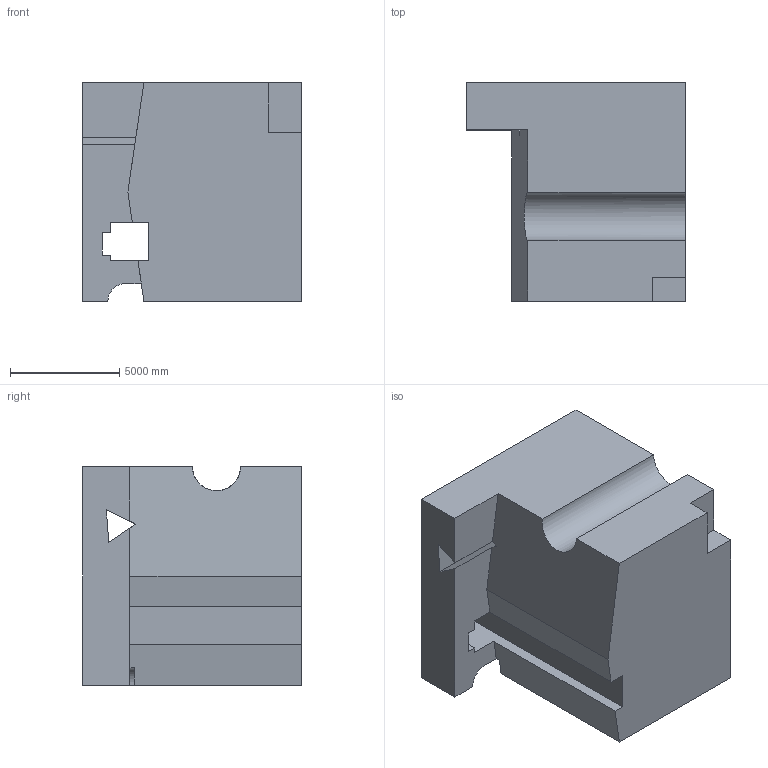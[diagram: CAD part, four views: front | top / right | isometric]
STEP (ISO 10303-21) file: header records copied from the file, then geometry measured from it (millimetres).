
FILE_DESCRIPTION (( 'STEP AP203' ), '1' );
FILE_NAME ('706.STEP', '2022-07-29T12:39:03', ( 'user' ), ( '' ), 'SwSTEP 2.0', 'SolidWorks 2021', '' );
FILE_SCHEMA (( 'CONFIG_CONTROL_DESIGN' ));
Length unit declared in the file: centimetre
Products named in the file (1): 706
Bounding box: 10000 x 10000 x 10000 mm (x, y, z)
Volume: 751966132455 mm3; surface area: 640302398.8 mm2
Topology: 1 solids, 1 shells, 35 faces, 102 edges, 68 vertices
Faces by surface type: plane 30, cylinder 5
Entity records: 1230 total; most frequent: CARTESIAN_POINT 209, ORIENTED_EDGE 204, DIRECTION 182, EDGE_CURVE 102, LINE 92, VECTOR 92, VERTEX_POINT 68, AXIS2_PLACEMENT_3D 45
